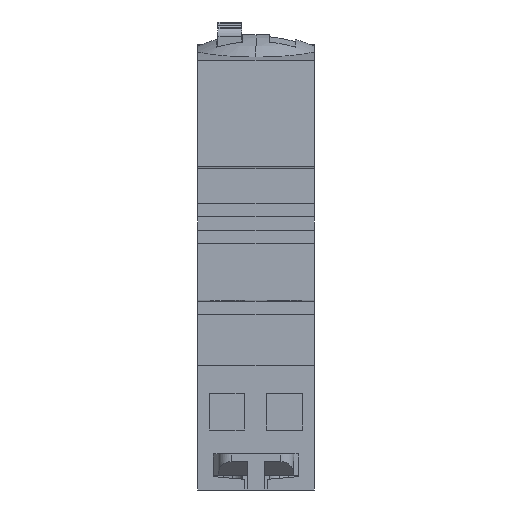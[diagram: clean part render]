
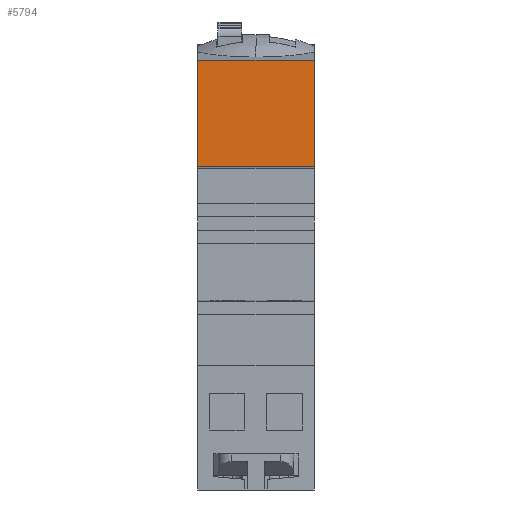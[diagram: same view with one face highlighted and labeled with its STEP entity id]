
A CAD part, front view. The second image highlights one B-rep face of the part: STEP entity #5794.
In plain terms, the highlighted planar face has unit normal (0, -1, 0.009).
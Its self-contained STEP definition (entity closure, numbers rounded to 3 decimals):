
#11=DIRECTION('',(0.,-0.009,-1.));
#12=VECTOR('',#11,16.234);
#13=CARTESIAN_POINT('',(1.523,19.542,-3.978));
#14=LINE('',#13,#12);
#474=DIRECTION('',(0.,0.009,1.));
#475=VECTOR('',#474,16.234);
#476=CARTESIAN_POINT('',(19.323,19.4,-20.211));
#477=LINE('',#476,#475);
#478=DIRECTION('',(-1.,0.,0.));
#479=VECTOR('',#478,17.8);
#480=CARTESIAN_POINT('',(19.323,19.542,-3.978));
#481=LINE('',#480,#479);
#514=DIRECTION('',(1.,0.,0.));
#515=VECTOR('',#514,17.8);
#516=CARTESIAN_POINT('',(1.523,19.4,-20.211));
#517=LINE('',#516,#515);
#4360=CARTESIAN_POINT('',(1.523,19.542,-3.978));
#4361=VERTEX_POINT('',#4360);
#4362=CARTESIAN_POINT('',(1.523,19.4,-20.211));
#4363=VERTEX_POINT('',#4362);
#4496=CARTESIAN_POINT('',(19.323,19.542,-3.978));
#4497=VERTEX_POINT('',#4496);
#4624=CARTESIAN_POINT('',(19.323,19.4,-20.215));
#4626=VERTEX_POINT('',#4624);
#5782=CARTESIAN_POINT('',(1.523,19.542,-3.978));
#5783=DIRECTION('',(0.,-1.,0.009));
#5784=DIRECTION('',(0.,-0.009,-1.));
#5785=AXIS2_PLACEMENT_3D('',#5782,#5783,#5784);
#5786=PLANE('',#5785);
#5787=ORIENTED_EDGE('',*,*,#5444,.F.);
#5788=ORIENTED_EDGE('',*,*,#5774,.F.);
#5789=ORIENTED_EDGE('',*,*,#5762,.F.);
#5791=ORIENTED_EDGE('',*,*,#5790,.F.);
#5792=EDGE_LOOP('',(#5787,#5788,#5789,#5791));
#5793=FACE_OUTER_BOUND('',#5792,.F.);
#5794=ADVANCED_FACE('',(#5793),#5786,.T.);
#5444=EDGE_CURVE('',#4361,#4363,#14,.T.);
#5762=EDGE_CURVE('',#4626,#4497,#477,.T.);
#5774=EDGE_CURVE('',#4497,#4361,#481,.T.);
#5790=EDGE_CURVE('',#4363,#4626,#517,.T.);
